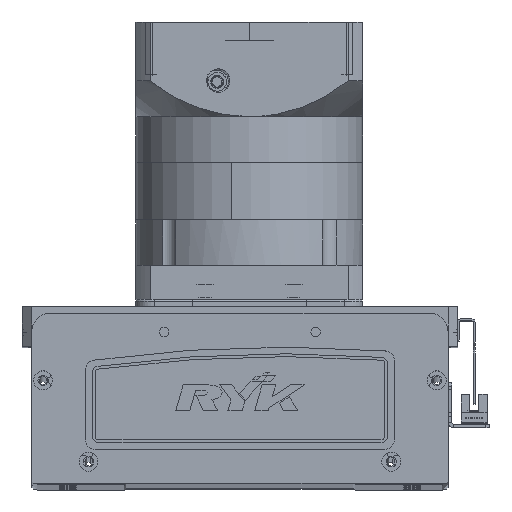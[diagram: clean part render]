
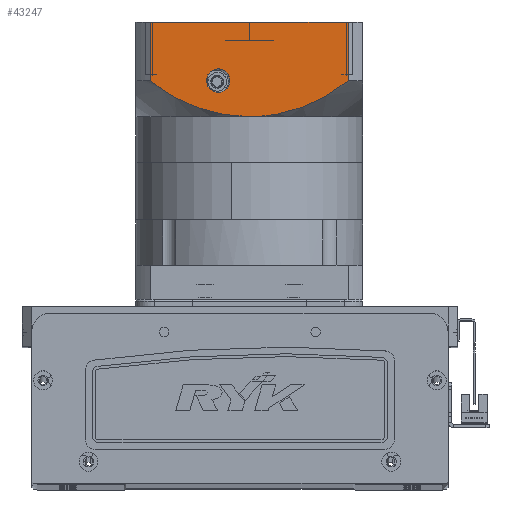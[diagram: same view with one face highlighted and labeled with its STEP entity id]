
A CAD part, top view. The second image highlights one B-rep face of the part: STEP entity #43247.
In plain terms, the highlighted planar face has unit normal (0, 0, 1) as drawn and (0, -1, 0) by its records, which use the part's own axes.
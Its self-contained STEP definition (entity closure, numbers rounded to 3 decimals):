
#237 = DIRECTION ( 'NONE',  ( 0., 0., -1. ) ) ;
#525 = DIRECTION ( 'NONE',  ( 1., 0., 0. ) ) ;
#946 = CIRCLE ( 'NONE', #36421, 6.25 ) ;
#984 = EDGE_CURVE ( 'NONE', #51391, #53029, #15068, .T. ) ;
#2186 = EDGE_CURVE ( 'NONE', #56304, #55649, #9863, .T. ) ;
#2749 = CARTESIAN_POINT ( 'NONE',  ( 25.577, -60., -104.596 ) ) ;
#3405 = CARTESIAN_POINT ( 'NONE',  ( 48.457, -60., -116.522 ) ) ;
#3623 = EDGE_CURVE ( 'NONE', #13928, #32208, #24342, .T. ) ;
#4719 = VECTOR ( 'NONE', #15204, 1000. ) ;
#5387 = CARTESIAN_POINT ( 'NONE',  ( -32.118, -60., -107.084 ) ) ;
#5617 = CARTESIAN_POINT ( 'NONE',  ( 16.5, -60., -119.5 ) ) ;
#6333 = ORIENTED_EDGE ( 'NONE', *, *, #3623, .T. ) ;
#6458 = FACE_BOUND ( 'NONE', #59270, .T. ) ;
#7928 = CARTESIAN_POINT ( 'NONE',  ( 9.454, -60., -100.914 ) ) ;
#8345 = CARTESIAN_POINT ( 'NONE',  ( 50.338, -60., -117.969 ) ) ;
#9128 = CARTESIAN_POINT ( 'NONE',  ( 52.156, -60., -119.5 ) ) ;
#9863 = LINE ( 'NONE', #43710, #30689 ) ;
#10575 = DIRECTION ( 'NONE',  ( 0., 1., 0. ) ) ;
#12644 = CARTESIAN_POINT ( 'NONE',  ( 44.553, -60., -113.817 ) ) ;
#13928 = VERTEX_POINT ( 'NONE', #49914 ) ;
#15068 = B_SPLINE_CURVE_WITH_KNOTS ( 'NONE', 3,
 ( #27989, #62082, #7928, #38110, #52117, #42655, #17996, #52555, #2749, #42429, #62495, #42217, #57069, #12644, #28209, #3405, #8345, #37877 ),
 .UNSPECIFIED., .F., .F.,
 ( 4, 2, 2, 2, 2, 2, 2, 2, 4 ),
 ( 0., 0.014, 0.018, 0.021, 0.028, 0.042, 0.046, 0.05, 0.057 ),
 .UNSPECIFIED. ) ;
#15204 = DIRECTION ( 'NONE',  ( 1., 0., 0. ) ) ;
#15583 = CARTESIAN_POINT ( 'NONE',  ( -60., -60., -150.5 ) ) ;
#16421 = AXIS2_PLACEMENT_3D ( 'NONE', #5617, #10575, #237 ) ;
#17996 = CARTESIAN_POINT ( 'NONE',  ( 19.894, -60., -102.964 ) ) ;
#18736 = ORIENTED_EDGE ( 'NONE', *, *, #984, .F. ) ;
#19328 = LINE ( 'NONE', #30100, #4719 ) ;
#19591 = CARTESIAN_POINT ( 'NONE',  ( -52.156, -60., -119.5 ) ) ;
#20220 = CARTESIAN_POINT ( 'NONE',  ( -48.52, -60., -116.438 ) ) ;
#21719 = EDGE_CURVE ( 'NONE', #35352, #53029, #39937, .T. ) ;
#23295 = DIRECTION ( 'NONE',  ( 0., 1., 0. ) ) ;
#24342 = CIRCLE ( 'NONE', #16421, 6.25 ) ;
#24597 = CARTESIAN_POINT ( 'NONE',  ( -38.51, -60., -110.207 ) ) ;
#26462 = ORIENTED_EDGE ( 'NONE', *, *, #56494, .F. ) ;
#26637 = EDGE_LOOP ( 'NONE', ( #63141, #32440, #37743, #18736, #26462 ) ) ;
#27034 = EDGE_CURVE ( 'NONE', #32208, #13928, #946, .T. ) ;
#27316 = CARTESIAN_POINT ( 'NONE',  ( 0., -60., -100.5 ) ) ;
#27989 = CARTESIAN_POINT ( 'NONE',  ( 0., -60., -100.5 ) ) ;
#28209 = CARTESIAN_POINT ( 'NONE',  ( 45.542, -60., -114.478 ) ) ;
#28260 = CARTESIAN_POINT ( 'NONE',  ( 16.5, -60., -113.25 ) ) ;
#29669 = DIRECTION ( 'NONE',  ( 0., 0., 1. ) ) ;
#29984 = CARTESIAN_POINT ( 'NONE',  ( -35.342, -60., -108.587 ) ) ;
#30100 = CARTESIAN_POINT ( 'NONE',  ( -60., -60., -150.5 ) ) ;
#30689 = VECTOR ( 'NONE', #29669, 1000. ) ;
#32208 = VERTEX_POINT ( 'NONE', #28260 ) ;
#32440 = ORIENTED_EDGE ( 'NONE', *, *, #52622, .T. ) ;
#32743 = DIRECTION ( 'NONE',  ( 0., 0., 1. ) ) ;
#32995 = VECTOR ( 'NONE', #32743, 1000. ) ;
#35352 = VERTEX_POINT ( 'NONE', #37367 ) ;
#35368 = CARTESIAN_POINT ( 'NONE',  ( -12.993, -60., -101.537 ) ) ;
#35586 = CARTESIAN_POINT ( 'NONE',  ( -4.747, -60., -100.604 ) ) ;
#36421 = AXIS2_PLACEMENT_3D ( 'NONE', #43575, #23295, #38174 ) ;
#37367 = CARTESIAN_POINT ( 'NONE',  ( 52.156, -60., -150.5 ) ) ;
#37743 = ORIENTED_EDGE ( 'NONE', *, *, #21719, .T. ) ;
#37877 = CARTESIAN_POINT ( 'NONE',  ( 52.156, -60., -119.5 ) ) ;
#38110 = CARTESIAN_POINT ( 'NONE',  ( 15.267, -60., -101.938 ) ) ;
#38174 = DIRECTION ( 'NONE',  ( 0., 0., -1. ) ) ;
#39937 = LINE ( 'NONE', #62316, #32995 ) ;
#40546 = CARTESIAN_POINT ( 'NONE',  ( -2.376, -60., -100.5 ) ) ;
#41031 = AXIS2_PLACEMENT_3D ( 'NONE', #15583, #50128, #525 ) ;
#41168 = CARTESIAN_POINT ( 'NONE',  ( -52.156, -60., -150.5 ) ) ;
#42217 = CARTESIAN_POINT ( 'NONE',  ( 41.545, -60., -111.931 ) ) ;
#42429 = CARTESIAN_POINT ( 'NONE',  ( 32.196, -60., -107.007 ) ) ;
#42655 = CARTESIAN_POINT ( 'NONE',  ( 18.739, -60., -102.681 ) ) ;
#43234 = PLANE ( 'NONE',  #41031 ) ;
#43247 = ADVANCED_FACE ( 'NONE', ( #46556, #6458 ), #43234, .T. ) ;
#43575 = CARTESIAN_POINT ( 'NONE',  ( 16.5, -60., -119.5 ) ) ;
#43710 = CARTESIAN_POINT ( 'NONE',  ( -52.156, -60., -97.5 ) ) ;
#45213 = CARTESIAN_POINT ( 'NONE',  ( -52.156, -60., -119.5 ) ) ;
#45294 = CARTESIAN_POINT ( 'NONE',  ( -18.792, -60., -102.562 ) ) ;
#46556 = FACE_OUTER_BOUND ( 'NONE', #26637, .T. ) ;
#49914 = CARTESIAN_POINT ( 'NONE',  ( 16.5, -60., -125.75 ) ) ;
#50042 = CARTESIAN_POINT ( 'NONE',  ( -9.477, -60., -101.046 ) ) ;
#50128 = DIRECTION ( 'NONE',  ( 0., -1., 0. ) ) ;
#50253 = CARTESIAN_POINT ( 'NONE',  ( -23.319, -60., -103.777 ) ) ;
#50674 = CARTESIAN_POINT ( 'NONE',  ( -8.294, -60., -100.916 ) ) ;
#51391 = VERTEX_POINT ( 'NONE', #27316 ) ;
#52117 = CARTESIAN_POINT ( 'NONE',  ( 16.426, -60., -102.169 ) ) ;
#52555 = CARTESIAN_POINT ( 'NONE',  ( 23.329, -60., -103.886 ) ) ;
#52622 = EDGE_CURVE ( 'NONE', #56304, #35352, #19328, .T. ) ;
#53029 = VERTEX_POINT ( 'NONE', #9128 ) ;
#54136 = CARTESIAN_POINT ( 'NONE',  ( -44.656, -60., -113.73 ) ) ;
#54749 = CARTESIAN_POINT ( 'NONE',  ( -39.546, -60., -110.776 ) ) ;
#55177 = CARTESIAN_POINT ( 'NONE',  ( -11.825, -60., -101.356 ) ) ;
#55649 = VERTEX_POINT ( 'NONE', #45213 ) ;
#55812 = CARTESIAN_POINT ( 'NONE',  ( 0., -60., -100.5 ) ) ;
#56304 = VERTEX_POINT ( 'NONE', #41168 ) ;
#56494 = EDGE_CURVE ( 'NONE', #55649, #51391, #56776, .T. ) ;
#56776 = B_SPLINE_CURVE_WITH_KNOTS ( 'NONE', 3,
 ( #19591, #20220, #54136, #54749, #24597, #59099, #29984, #5387, #59743, #50253, #45294, #35368, #55177, #50042, #50674, #35586, #40546, #55812 ),
 .UNSPECIFIED., .F., .F.,
 ( 4, 2, 2, 2, 2, 2, 2, 2, 4 ),
 ( 0., 0.014, 0.018, 0.021, 0.028, 0.042, 0.046, 0.05, 0.057 ),
 .UNSPECIFIED. ) ;
#57069 = CARTESIAN_POINT ( 'NONE',  ( 42.555, -60., -112.543 ) ) ;
#59099 = CARTESIAN_POINT ( 'NONE',  ( -36.409, -60., -109.113 ) ) ;
#59270 = EDGE_LOOP ( 'NONE', ( #6333, #62423 ) ) ;
#59743 = CARTESIAN_POINT ( 'NONE',  ( -29.939, -60., -106.183 ) ) ;
#62082 = CARTESIAN_POINT ( 'NONE',  ( 4.753, -60., -100.5 ) ) ;
#62316 = CARTESIAN_POINT ( 'NONE',  ( 52.156, -60., -150.5 ) ) ;
#62423 = ORIENTED_EDGE ( 'NONE', *, *, #27034, .T. ) ;
#62495 = CARTESIAN_POINT ( 'NONE',  ( 36.444, -60., -108.986 ) ) ;
#63141 = ORIENTED_EDGE ( 'NONE', *, *, #2186, .F. ) ;
